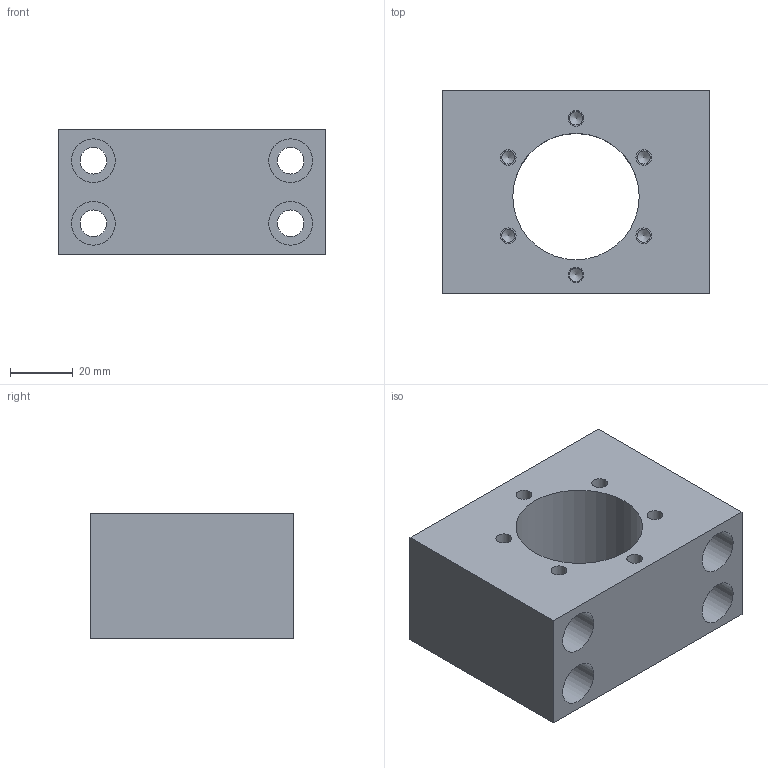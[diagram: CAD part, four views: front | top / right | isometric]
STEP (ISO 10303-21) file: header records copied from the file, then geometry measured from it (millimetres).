
FILE_DESCRIPTION(/* description */ (''),/* implementation_level */ '2;1');
FILE_NAME(/* name */ 'MGS25-M5.stp',/* time_stamp */ '2017-01-03T10:15:13+08:00',/* author */ (''),/* organization */ (''),/* preprocessor_version */ 'ST-DEVELOPER v15',/* originating_system */ 'SIEMENS PLM Software NX 8.5',/* authorisation */ '');
FILE_SCHEMA (('AUTOMOTIVE_DESIGN { 1 0 10303 214 3 1 1 1 }'));
Length unit declared in the file: millimetre
Products named in the file (1): Admi176C94C16gur
Bounding box: 85 x 65 x 40 mm (x, y, z)
Volume: 147714.6 mm3; surface area: 34138.1 mm2
Topology: 1 solids, 1 shells, 51 faces, 113 edges, 78 vertices
Faces by surface type: cylinder 25, plane 20, cone 6
Full cylindrical faces by diameter (mm): 4.2 x6, 5 x6, 8.5 x4, 10 x4, 14 x4, 40.4 x1
Entity records: 1182 total; most frequent: DIRECTION 216, CARTESIAN_POINT 178, ORIENTED_EDGE 124, FACE_BOUND 110, EDGE_LOOP 106, AXIS2_PLACEMENT_3D 102, VERTEX_POINT 64, EDGE_CURVE 62
